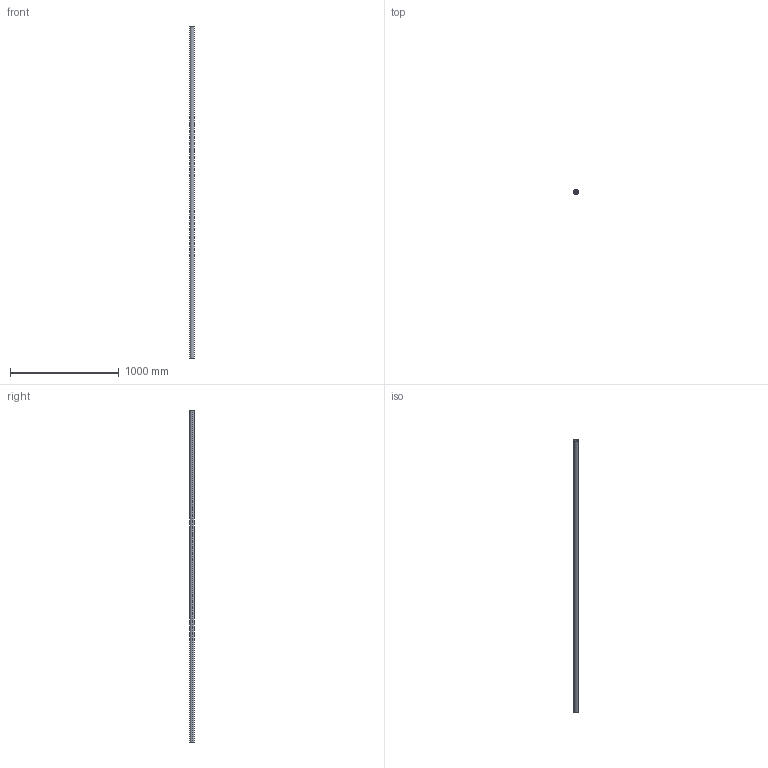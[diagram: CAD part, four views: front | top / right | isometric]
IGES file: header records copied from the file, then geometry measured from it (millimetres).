
Start section: SolidWorks IGES file using analytic representation for surfaces
Global section: file name: C:\Users\IanO\Desktop\L1771_v2\L1771.40_v2\L1771.40_v2_20230705_IGES\L1771.40-3050.igs; native system: SolidWorks 2019; preprocessor: SolidWorks 2019; author: IanO; date: 230705.161634; units: millimetre
Bounding box: 40 x 40 x 3050 mm (x, y, z)
Surface area: 652848.1 mm2 (no closed solid volume)
Topology: 0 solids, 0 shells, 6 faces, 272 edges, 272 vertices
Faces by surface type: revolution 4, bspline 2
